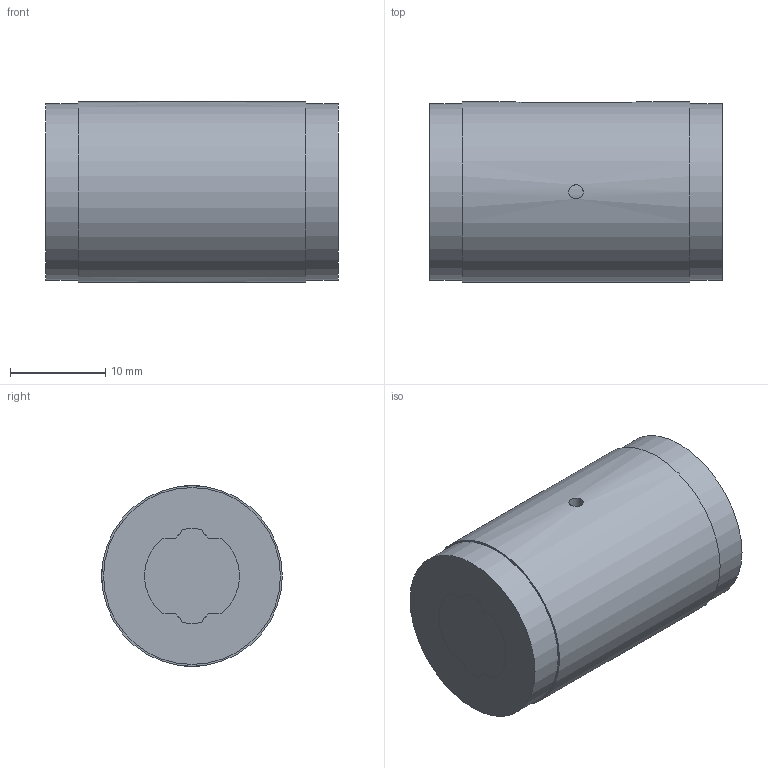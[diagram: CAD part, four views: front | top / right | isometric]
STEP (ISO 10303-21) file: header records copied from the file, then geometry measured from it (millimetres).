
FILE_DESCRIPTION(/* description */ ('STEP AP203'),/* implementation_level */ '2;1');
FILE_NAME(/* name */ 'LT10X+30.8L(00)',/* time_stamp */ '2024-05-28T07:07:33+02:00',/* author */ ('License CC BY-ND 4.0'),/* organization */ ('CADENAS'),/* preprocessor_version */ 'ST-DEVELOPER v19.3',/* originating_system */ 'PARTsolutions',/* authorisation */ ' ');
FILE_SCHEMA (('CONFIG_CONTROL_DESIGN'));
Length unit declared in the file: millimetre
Products named in the file (3): LT10X+30.8L(00); 1LT10X 30.8Shaft; 1LT10X Cylindar
Assembly tree (2 placements, depth 2):
  LT10X+30.8L(00)
    1LT10X 30.8Shaft
    1LT10X Cylindar
Bounding box: 30.8 x 19 x 19 mm (x, y, z)
Volume: 8581.1 mm3; surface area: 4475.3 mm2
Topology: 2 solids, 2 shells, 64 faces, 173 edges, 115 vertices
Faces by surface type: cylinder 39, plane 25
Full cylindrical faces by diameter (mm): 1.5 x2, 18.6 x2, 19 x1
Entity records: 2129 total; most frequent: CARTESIAN_POINT 399, DIRECTION 366, ORIENTED_EDGE 332, EDGE_CURVE 166, AXIS2_PLACEMENT_3D 139, VERTEX_POINT 114, LINE 88, VECTOR 88
